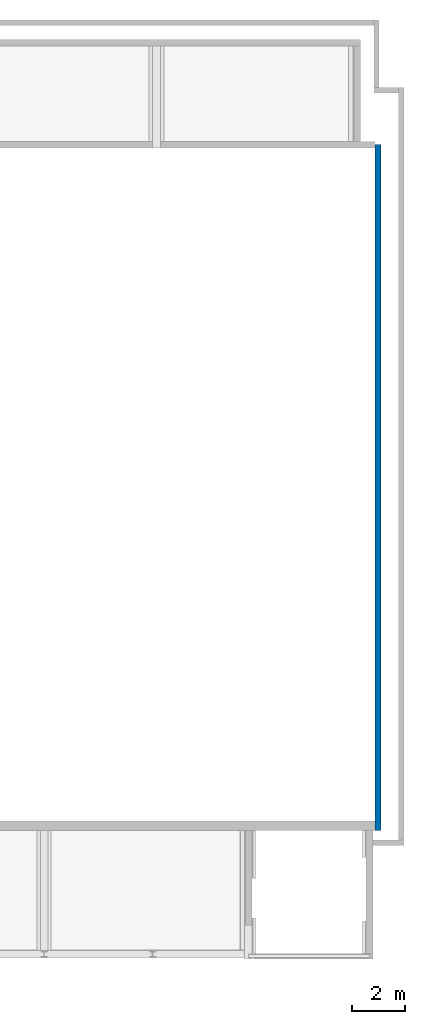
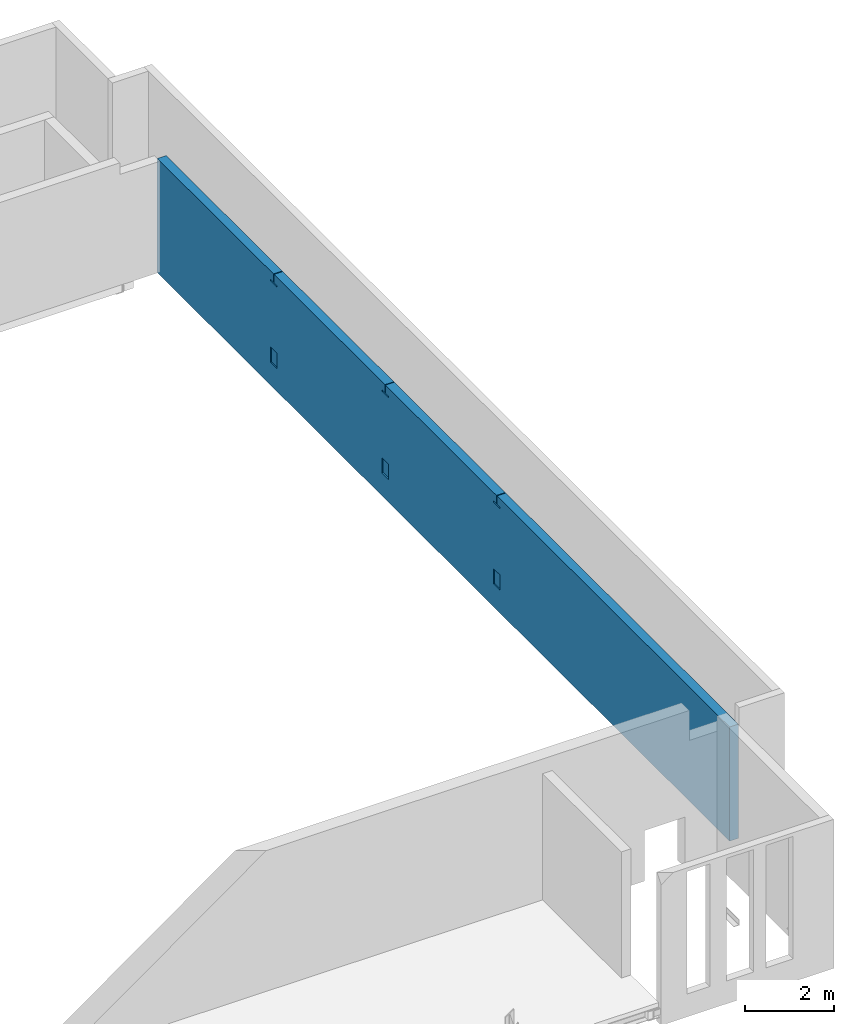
# One storey, part 50 of 50: 1 wall.
"""IFC2X3 building model written with IfcOpenShell, lengths in millimetres."""

from ifc_helpers import new_model, entity, si_unit, converted_unit, derived_unit, direction, frame, origin, place, context, subcontext, project, spatial, faceted_brep, material, layer, layer_set, type_object, element, save


model = new_model("IFC2X3")

# Units and contexts
model_context = context("Model", 3, precision=0.01, world=origin(), true_north=direction((6.12303176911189e-17, 1.0)))
body_context = subcontext(model_context, "Body", "Model", "MODEL_VIEW")
ifc_project = project(units=[si_unit("LENGTHUNIT", "METRE", prefix="MILLI"), si_unit("AREAUNIT", "SQUARE_METRE", prefix="MILLI"), si_unit("VOLUMEUNIT", "CUBIC_METRE"), converted_unit("PLANEANGLEUNIT", "DEGREE", entity("IfcRatioMeasure", 0.0174532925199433), si_unit("PLANEANGLEUNIT", "RADIAN"), dimensions=[0, 0, 0, 0, 0, 0, 0]), si_unit("MASSUNIT", "GRAM", prefix="KILO"), derived_unit("MASSDENSITYUNIT", [(si_unit("MASSUNIT", "GRAM", prefix="KILO"), 1), (si_unit("LENGTHUNIT", "METRE"), -3)]), derived_unit("MOMENTOFINERTIAUNIT", [(si_unit("LENGTHUNIT", "METRE"), 4)]), si_unit("TIMEUNIT", "SECOND"), si_unit("FREQUENCYUNIT", "HERTZ"), si_unit("THERMODYNAMICTEMPERATUREUNIT", "DEGREE_CELSIUS"), derived_unit("THERMALTRANSMITTANCEUNIT", [(si_unit("MASSUNIT", "GRAM", prefix="KILO"), 1), (si_unit("THERMODYNAMICTEMPERATUREUNIT", "KELVIN"), -1), (si_unit("TIMEUNIT", "SECOND"), -3)]), derived_unit("VOLUMETRICFLOWRATEUNIT", [(si_unit("LENGTHUNIT", "METRE"), 3), (si_unit("TIMEUNIT", "SECOND"), -1)]), si_unit("ELECTRICCURRENTUNIT", "AMPERE"), si_unit("ELECTRICVOLTAGEUNIT", "VOLT"), si_unit("POWERUNIT", "WATT"), si_unit("FORCEUNIT", "NEWTON", prefix="KILO"), si_unit("ILLUMINANCEUNIT", "LUX"), si_unit("LUMINOUSFLUXUNIT", "LUMEN"), si_unit("LUMINOUSINTENSITYUNIT", "CANDELA"), derived_unit("USERDEFINED", [(si_unit("MASSUNIT", "GRAM", prefix="KILO"), -1), (si_unit("LENGTHUNIT", "METRE"), -2), (si_unit("TIMEUNIT", "SECOND"), 3), (si_unit("LUMINOUSFLUXUNIT", "LUMEN"), 1)]), derived_unit("LINEARVELOCITYUNIT", [(si_unit("LENGTHUNIT", "METRE"), 1), (si_unit("TIMEUNIT", "SECOND"), -1)]), si_unit("PRESSUREUNIT", "PASCAL"), derived_unit("USERDEFINED", [(si_unit("LENGTHUNIT", "METRE"), -2), (si_unit("MASSUNIT", "GRAM", prefix="KILO"), 1), (si_unit("TIMEUNIT", "SECOND"), -2)]), derived_unit("LINEARFORCEUNIT", [(si_unit("MASSUNIT", "GRAM", prefix="KILO"), 1), (si_unit("LENGTHUNIT", "METRE"), 1), (si_unit("TIMEUNIT", "SECOND"), -2), (si_unit("LENGTHUNIT", "METRE"), -1)]), derived_unit("PLANARFORCEUNIT", [(si_unit("MASSUNIT", "GRAM", prefix="KILO"), 1), (si_unit("LENGTHUNIT", "METRE"), 1), (si_unit("TIMEUNIT", "SECOND"), -2), (si_unit("LENGTHUNIT", "METRE"), -2)])], contexts=[model_context])

# Site, building, storey
site_placement = place(None, origin())
site = spatial("IfcSite", under=ifc_project, at=site_placement, Name="Theater aan de Parade", CompositionType="ELEMENT")
building_placement = place(site_placement, origin())
building = spatial("IfcBuilding", under=site, at=building_placement, Name="Theater aan de Parade", CompositionType="ELEMENT")
storey_placement = place(building_placement, frame((0.0, 0.0, 15820.0)))
storey = spatial("IfcBuildingStorey", under=building, at=storey_placement, Name="04 vierde verdieping", CompositionType="ELEMENT", Elevation=15820.0)

# Wall
ifc_material = material(Name="00_PBT_MAT_beton t.p.g._C40/50")
ifc_layer = layer(ifc_material, 230.0)
ifc_layer_set = layer_set([ifc_layer], Name="Basic Wall:28_PBT_WA_beton t.p.g._d=230_C40/50")
wall_type = type_object("IfcWallType", Name="Basic Wall:28_PBT_WA_beton t.p.g._d=230_C40/50", PredefinedType="STANDARD", material=ifc_layer_set)
wall_placement = place(storey_placement, frame((87211.0, 45135.0, 535.0), z_axis=(0.0, 0.0, 1.0), x_axis=(0.0, -1.0, 0.0)))
element("IfcWall", 1, at=wall_placement, inside=storey, type_object=wall_type, Name="Basic Wall:28_PBT_WA_beton t.p.g._d=230_C40/50", ObjectType="Basic Wall:28_PBT_WA_beton t.p.g._d=230_C40/50", context=body_context, shape_type="Brep", body=[
    faceted_brep([(0.0, -115.0, 0.0), (25674.9997564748, -115.0, 0.0), (25674.9997564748, -115.0, 3125.0), (25324.9997564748, -115.0, 3125.0), (15235.5000000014, -115.0, 3125.0), (15235.5000000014, -115.0, 2900.0), (15375.0, -115.0, 2900.0), (15375.0, -115.0, 2860.0), (15075.0, -115.0, 2860.0), (15075.0, -115.0, 2900.0), (15214.5000000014, -115.0, 2900.0), (15214.5000000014, -115.0, 3125.0), (10235.5000000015, -115.0, 3125.0), (10235.5000000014, -115.0, 2900.0), (10375.0, -115.0, 2900.0), (10375.0, -115.0, 2860.0), (10075.0, -115.0, 2860.0), (10075.0, -115.0, 2900.0), (10214.5000000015, -115.0, 2900.0), (10214.5000000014, -115.0, 3125.0), (5235.50000000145, -115.0, 3125.0), (5235.50000000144, -115.0, 2900.0), (5375.0, -115.0, 2900.0), (5375.0, -115.0, 2860.0), (5075.0, -115.0, 2860.0), (5075.0, -115.0, 2900.0), (5214.50000000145, -115.0, 2900.0), (5214.50000000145, -115.0, 3125.0), (0.0, -115.0, 3125.0), (10375.0, -115.0, 1043.56854249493), (10375.0, -115.0, 625.0), (10075.0, -115.0, 625.0), (10075.0, -115.0, 1043.56854249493), (5375.0, -115.0, 1043.56854249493), (5375.0, -115.0, 625.0), (5075.0, -115.0, 625.0), (5075.0, -115.0, 1043.56854249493), (15375.0, -115.0, 1043.56854249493), (15375.0, -115.0, 625.0), (15075.0, -115.0, 625.0), (15075.0, -115.0, 1043.56854249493), (25674.9997564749, 115.0, 0.0), (0.0, 115.0, 0.0), (0.0, 115.0, 3125.0), (5214.50000000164, 115.0, 3125.0), (5214.50000000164, 115.0, 2900.0), (5075.0, 115.0, 2900.0), (5075.0, 115.0, 2860.0), (5375.0, 115.0, 2860.0), (5375.0, 115.0, 2900.0), (5235.50000000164, 115.0, 2900.0), (5235.50000000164, 115.0, 3125.0), (10214.5000000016, 115.0, 3125.0), (10214.5000000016, 115.0, 2900.0), (10075.0, 115.0, 2900.0), (10075.0, 115.0, 2860.0), (10375.0, 115.0, 2860.0), (10375.0, 115.0, 2900.0), (10235.5000000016, 115.0, 2900.0), (10235.5000000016, 115.0, 3125.0), (15214.5000000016, 115.0, 3125.0), (15214.5000000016, 115.0, 2900.0), (15075.0, 115.0, 2900.0), (15075.0, 115.0, 2860.0), (15375.0, 115.0, 2860.0), (15375.0, 115.0, 2900.0), (15235.5000000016, 115.0, 2900.0), (15235.5000000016, 115.0, 3125.0), (20214.5000000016, 115.0, 3125.0), (20235.5000000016, 115.0, 3125.0), (25674.9997564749, 115.0, 3125.0), (10375.0, -84.9431459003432, 625.0), (10375.0, -114.943145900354, 1043.56854249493), (10375.0, -84.9431459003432, 1043.56854249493), (10075.0, -84.9431459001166, 1043.56854249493), (10075.0, -114.94314590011, 625.0), (10075.0, -84.9431459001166, 625.0), (10375.0, -114.943145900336, 625.0), (10075.0, -114.943145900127, 1043.56854249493), (5375.0, -84.9431459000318, 625.0), (5375.0, -114.943145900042, 1043.56854249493), (5375.0, -84.9431459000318, 1043.56854249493), (5075.0, -84.9431458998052, 1043.56854249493), (5075.0, -114.943145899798, 625.0), (5075.0, -84.9431458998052, 625.0), (5375.0, -114.943145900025, 625.0), (5075.0, -114.943145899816, 1043.56854249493), (15375.0, -84.943145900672, 625.0), (15375.0, -114.943145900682, 1043.56854249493), (15375.0, -84.943145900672, 1043.56854249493), (15075.0, -84.9431459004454, 1043.56854249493), (15075.0, -114.943145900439, 625.0), (15075.0, -84.9431459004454, 625.0), (15375.0, -114.943145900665, 625.0), (15075.0, -114.943145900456, 1043.56854249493)], [[[0, 1, 2, 3, 4, 5, 6, 7, 8, 9, 10, 11, 12, 13, 14, 15, 16, 17, 18, 19, 20, 21, 22, 23, 24, 25, 26, 27, 28], [29, 30, 31, 32], [33, 34, 35, 36], [37, 38, 39, 40]], [[41, 42, 43, 44, 45, 46, 47, 48, 49, 50, 51, 52, 53, 54, 55, 56, 57, 58, 59, 60, 61, 62, 63, 64, 65, 66, 67, 68, 69, 70]], [[1, 0, 42, 41]], [[2, 70, 69, 68, 67, 4, 3]], [[0, 28, 43, 42]], [[2, 1, 41, 70]], [[14, 57, 56, 15]], [[16, 55, 54, 17]], [[13, 12, 59, 58]], [[19, 18, 53, 52]], [[15, 56, 55, 16]], [[57, 14, 13, 58]], [[71, 30, 72, 73]], [[74, 32, 75, 76]], [[77, 71, 76, 31]], [[71, 73, 74, 76]], [[73, 29, 78, 74]], [[22, 49, 48, 23]], [[24, 47, 46, 25]], [[50, 21, 20, 51]], [[26, 45, 44, 27]], [[23, 48, 47, 24]], [[49, 22, 21, 50]], [[79, 34, 80, 81]], [[82, 36, 83, 84]], [[85, 79, 84, 35]], [[79, 81, 82, 84]], [[81, 33, 86, 82]], [[6, 65, 64, 7]], [[8, 63, 62, 9]], [[66, 5, 4, 67]], [[10, 61, 60, 11]], [[7, 64, 63, 8]], [[65, 6, 5, 66]], [[87, 38, 88, 89]], [[90, 40, 91, 92]], [[93, 87, 92, 39]], [[87, 89, 90, 92]], [[89, 37, 94, 90]], [[9, 62, 61, 10]], [[25, 46, 45, 26]], [[17, 54, 53, 18]], [[19, 52, 51, 20]], [[43, 28, 27, 44]], [[59, 12, 11, 60]]]),
])

save(model, "model.ifc")
